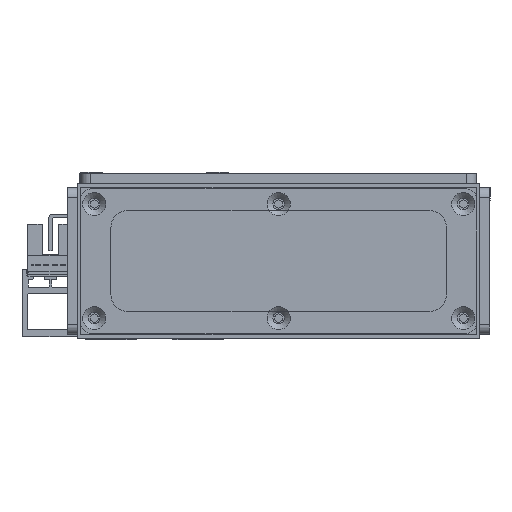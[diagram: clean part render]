
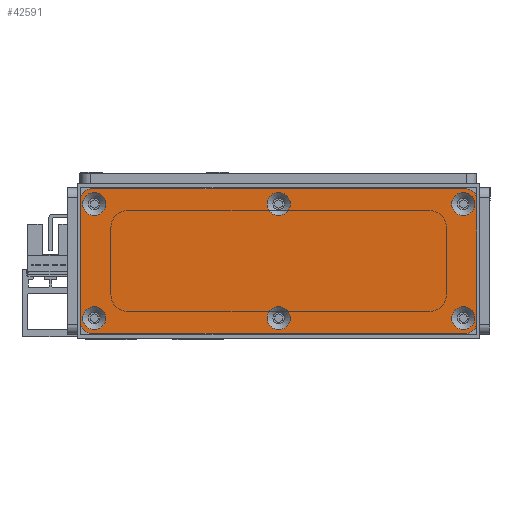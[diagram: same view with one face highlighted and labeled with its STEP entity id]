
A CAD part, front view. The second image highlights one B-rep face of the part: STEP entity #42591.
In plain terms, the highlighted planar face has unit normal (0, -1, 0) as drawn and (0, 0, 1) by its records, which use the part's own axes.
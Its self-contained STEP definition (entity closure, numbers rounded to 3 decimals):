
#731=FACE_BOUND('',#7692,.T.);
#732=FACE_BOUND('',#7693,.T.);
#733=FACE_BOUND('',#7694,.T.);
#734=FACE_BOUND('',#7695,.T.);
#735=FACE_BOUND('',#7696,.T.);
#736=FACE_BOUND('',#7697,.T.);
#2620=PLANE('',#46023);
#5169=FACE_OUTER_BOUND('',#7691,.T.);
#7691=EDGE_LOOP('',(#34436,#34437,#34438,#34439,#34440,#34441,#34442,#34443));
#7692=EDGE_LOOP('',(#34444));
#7693=EDGE_LOOP('',(#34445));
#7694=EDGE_LOOP('',(#34446));
#7695=EDGE_LOOP('',(#34447));
#7696=EDGE_LOOP('',(#34448));
#7697=EDGE_LOOP('',(#34449));
#10550=LINE('',#65487,#15250);
#10554=LINE('',#65499,#15254);
#10558=LINE('',#65511,#15258);
#10562=LINE('',#65521,#15262);
#15250=VECTOR('',#52629,10.);
#15254=VECTOR('',#52641,10.);
#15258=VECTOR('',#52653,10.);
#15262=VECTOR('',#52665,10.);
#19311=CIRCLE('',#45977,3.45);
#19314=CIRCLE('',#45982,3.45);
#19317=CIRCLE('',#45987,3.45);
#19320=CIRCLE('',#45992,3.45);
#19323=CIRCLE('',#45997,3.45);
#19326=CIRCLE('',#46002,3.45);
#19330=CIRCLE('',#46008,3.);
#19332=CIRCLE('',#46012,3.);
#19334=CIRCLE('',#46016,3.);
#19336=CIRCLE('',#46020,3.);
#21171=VERTEX_POINT('',#65415);
#21174=VERTEX_POINT('',#65425);
#21177=VERTEX_POINT('',#65435);
#21180=VERTEX_POINT('',#65445);
#21183=VERTEX_POINT('',#65455);
#21186=VERTEX_POINT('',#65465);
#21191=VERTEX_POINT('',#65478);
#21192=VERTEX_POINT('',#65480);
#21194=VERTEX_POINT('',#65486);
#21196=VERTEX_POINT('',#65492);
#21198=VERTEX_POINT('',#65498);
#21200=VERTEX_POINT('',#65504);
#21202=VERTEX_POINT('',#65510);
#21204=VERTEX_POINT('',#65516);
#25956=EDGE_CURVE('',#21171,#21171,#19311,.T.);
#25961=EDGE_CURVE('',#21174,#21174,#19314,.T.);
#25966=EDGE_CURVE('',#21177,#21177,#19317,.T.);
#25971=EDGE_CURVE('',#21180,#21180,#19320,.T.);
#25976=EDGE_CURVE('',#21183,#21183,#19323,.T.);
#25981=EDGE_CURVE('',#21186,#21186,#19326,.T.);
#25988=EDGE_CURVE('',#21192,#21191,#19330,.T.);
#25991=EDGE_CURVE('',#21194,#21192,#10550,.T.);
#25994=EDGE_CURVE('',#21196,#21194,#19332,.T.);
#25997=EDGE_CURVE('',#21198,#21196,#10554,.T.);
#26000=EDGE_CURVE('',#21200,#21198,#19334,.T.);
#26003=EDGE_CURVE('',#21202,#21200,#10558,.T.);
#26006=EDGE_CURVE('',#21204,#21202,#19336,.T.);
#26009=EDGE_CURVE('',#21191,#21204,#10562,.T.);
#34436=ORIENTED_EDGE('',*,*,#26009,.T.);
#34437=ORIENTED_EDGE('',*,*,#26006,.T.);
#34438=ORIENTED_EDGE('',*,*,#26003,.T.);
#34439=ORIENTED_EDGE('',*,*,#26000,.T.);
#34440=ORIENTED_EDGE('',*,*,#25997,.T.);
#34441=ORIENTED_EDGE('',*,*,#25994,.T.);
#34442=ORIENTED_EDGE('',*,*,#25991,.T.);
#34443=ORIENTED_EDGE('',*,*,#25988,.T.);
#34444=ORIENTED_EDGE('',*,*,#25956,.T.);
#34445=ORIENTED_EDGE('',*,*,#25961,.T.);
#34446=ORIENTED_EDGE('',*,*,#25966,.T.);
#34447=ORIENTED_EDGE('',*,*,#25971,.T.);
#34448=ORIENTED_EDGE('',*,*,#25976,.T.);
#34449=ORIENTED_EDGE('',*,*,#25981,.T.);
#42591=ADVANCED_FACE('',(#5169,#731,#732,#733,#734,#735,#736),#2620,.T.);
#45977=AXIS2_PLACEMENT_3D('',#65416,#52548,#52549);
#45982=AXIS2_PLACEMENT_3D('',#65426,#52560,#52561);
#45987=AXIS2_PLACEMENT_3D('',#65436,#52572,#52573);
#45992=AXIS2_PLACEMENT_3D('',#65446,#52584,#52585);
#45997=AXIS2_PLACEMENT_3D('',#65456,#52596,#52597);
#46002=AXIS2_PLACEMENT_3D('',#65466,#52608,#52609);
#46008=AXIS2_PLACEMENT_3D('',#65481,#52623,#52624);
#46012=AXIS2_PLACEMENT_3D('',#65493,#52635,#52636);
#46016=AXIS2_PLACEMENT_3D('',#65505,#52647,#52648);
#46020=AXIS2_PLACEMENT_3D('',#65517,#52659,#52660);
#46023=AXIS2_PLACEMENT_3D('',#65523,#52668,#52669);
#52548=DIRECTION('center_axis',(0.,0.,-1.));
#52549=DIRECTION('ref_axis',(1.,0.,0.));
#52560=DIRECTION('center_axis',(0.,0.,-1.));
#52561=DIRECTION('ref_axis',(1.,0.,0.));
#52572=DIRECTION('center_axis',(0.,0.,-1.));
#52573=DIRECTION('ref_axis',(1.,0.,0.));
#52584=DIRECTION('center_axis',(0.,0.,-1.));
#52585=DIRECTION('ref_axis',(1.,0.,0.));
#52596=DIRECTION('center_axis',(0.,0.,-1.));
#52597=DIRECTION('ref_axis',(1.,0.,0.));
#52608=DIRECTION('center_axis',(0.,0.,-1.));
#52609=DIRECTION('ref_axis',(1.,0.,0.));
#52623=DIRECTION('center_axis',(0.,0.,1.));
#52624=DIRECTION('ref_axis',(-1.,0.,0.));
#52629=DIRECTION('',(0.,1.,0.));
#52635=DIRECTION('center_axis',(0.,0.,1.));
#52636=DIRECTION('ref_axis',(0.,1.,0.));
#52641=DIRECTION('',(1.,0.,0.));
#52647=DIRECTION('center_axis',(0.,0.,1.));
#52648=DIRECTION('ref_axis',(1.,0.,0.));
#52653=DIRECTION('',(0.,-1.,0.));
#52659=DIRECTION('center_axis',(0.,0.,1.));
#52660=DIRECTION('ref_axis',(0.,-1.,0.));
#52665=DIRECTION('',(-1.,0.,0.));
#52668=DIRECTION('center_axis',(0.,0.,1.));
#52669=DIRECTION('ref_axis',(1.,0.,0.));
#65415=CARTESIAN_POINT('',(110.55,4.5,3.));
#65416=CARTESIAN_POINT('Origin',(114.,4.5,3.));
#65425=CARTESIAN_POINT('',(55.55,38.5,3.));
#65426=CARTESIAN_POINT('Origin',(59.,38.5,3.));
#65435=CARTESIAN_POINT('',(55.55,4.5,3.));
#65436=CARTESIAN_POINT('Origin',(59.,4.5,3.));
#65445=CARTESIAN_POINT('',(0.55,38.5,3.));
#65446=CARTESIAN_POINT('Origin',(4.,38.5,3.));
#65455=CARTESIAN_POINT('',(110.55,38.5,3.));
#65456=CARTESIAN_POINT('Origin',(114.,38.5,3.));
#65465=CARTESIAN_POINT('',(0.55,4.5,3.));
#65466=CARTESIAN_POINT('Origin',(4.,4.5,3.));
#65478=CARTESIAN_POINT('',(115.,43.,3.));
#65480=CARTESIAN_POINT('',(118.,40.,3.));
#65481=CARTESIAN_POINT('Origin',(115.,40.,3.));
#65486=CARTESIAN_POINT('',(118.,3.,3.));
#65487=CARTESIAN_POINT('',(118.,40.,3.));
#65492=CARTESIAN_POINT('',(115.,0.,3.));
#65493=CARTESIAN_POINT('Origin',(115.,3.,3.));
#65498=CARTESIAN_POINT('',(3.,0.,3.));
#65499=CARTESIAN_POINT('',(115.,0.,3.));
#65504=CARTESIAN_POINT('',(0.,3.,3.));
#65505=CARTESIAN_POINT('Origin',(3.,3.,3.));
#65510=CARTESIAN_POINT('',(0.,40.,3.));
#65511=CARTESIAN_POINT('',(0.,3.,3.));
#65516=CARTESIAN_POINT('',(3.,43.,3.));
#65517=CARTESIAN_POINT('Origin',(3.,40.,3.));
#65521=CARTESIAN_POINT('',(3.,43.,3.));
#65523=CARTESIAN_POINT('Origin',(59.,21.5,3.));
